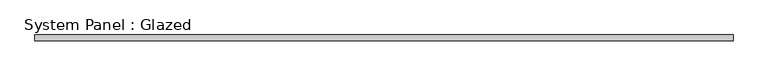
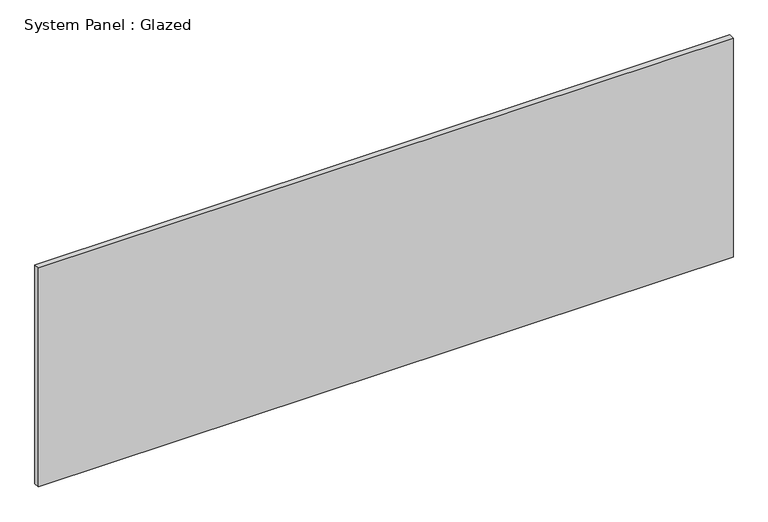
"""IFC4 building model written with IfcOpenShell, lengths in millimetres: plate geometry, System Panel : Glazed."""

from ifc_helpers import new_model, si_unit, origin, origin_with_axes, place, context, project, spatial, polyline, outline, extrude, source, transform, mapped, element, save


def system_panel_glazed_27c984d1(model_context):
    return source(origin(), model_context, "Body", "SweptSolid", [
        extrude(outline(polyline([(1500.0, 24.5), (-1500.0, 24.5), (-1500.0, 49.5), (1500.0, 49.5), (1500.0, 24.5)])), origin_with_axes(), (0.0, 0.0, 1.0), 1000.0),
    ])


if __name__ == "__main__":
    model = new_model("IFC4")
    model_context = context("Model", 3, world=origin())
    ifc_project = project(units=[si_unit("LENGTHUNIT", "METRE", prefix="MILLI")], contexts=[model_context])
    site = spatial("IfcSite", under=ifc_project)
    building = spatial("IfcBuilding", under=site)
    placement = place(None, origin())
    system_panel_glazed_shape = system_panel_glazed_27c984d1(model_context)
    element("IfcPlate", 1, ObjectType="System Panel : Glazed", at=placement, inside=building, context=model_context, shape_type="MappedRepresentation", body=[
        mapped(system_panel_glazed_shape, transform((0.0, 0.0, 0.0), x_axis=(1.0, 0.0, 0.0), y_axis=(0.0, 1.0, 0.0), z_axis=(0.0, 0.0, 1.0))),
    ])
    save(model, "model.ifc")
